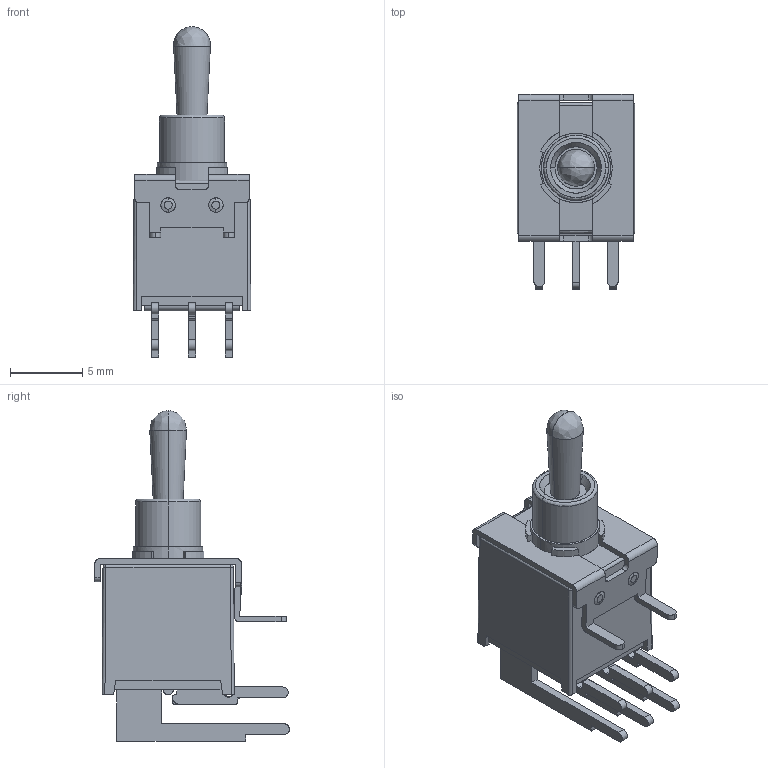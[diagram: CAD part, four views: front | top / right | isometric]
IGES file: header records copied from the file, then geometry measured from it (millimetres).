
Start section: SolidWorks IGES file using analytic representation for surfaces
Global section: file name: E:\阿財\工作圖檔\成品圖\2A系列\2AD3T2A2M6QES1.IGS; native system: SolidWorks 2012; preprocessor: SolidWorks 2012; author: user; date: 131021.163647; units: millimetre
Bounding box: 8.13 x 13.46 x 22.84 mm (x, y, z)
Surface area: 902 mm2 (no closed solid volume)
Topology: 0 solids, 0 shells, 221 faces, 1746 edges, 1738 vertices
Faces by surface type: bspline 142, revolution 79
